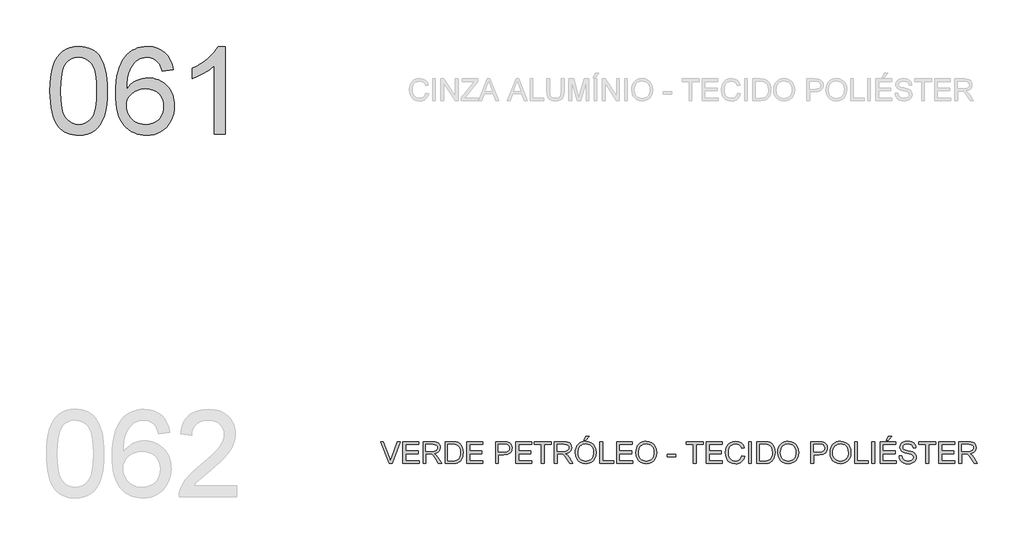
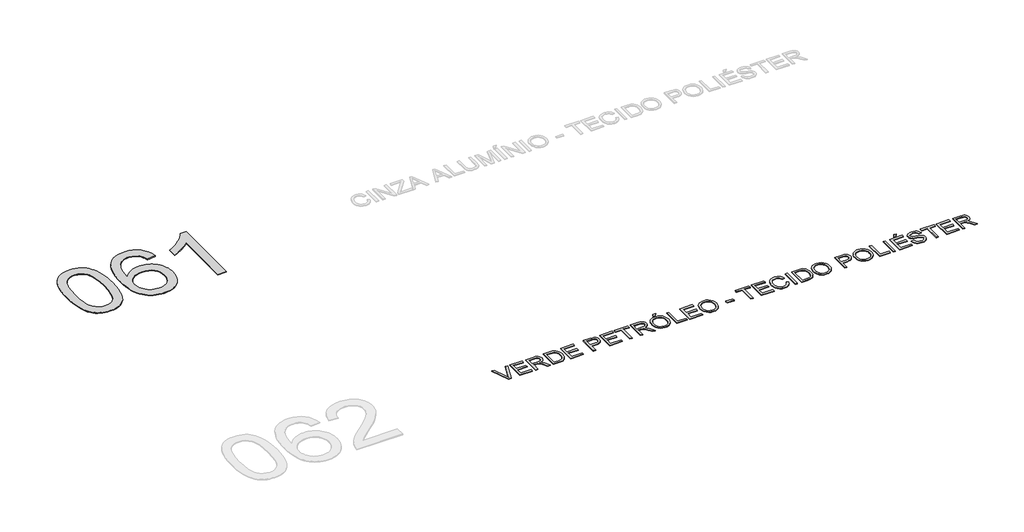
# One storey, part 15 of 35: 2 proxies.
"""IFC4 building model written with IfcOpenShell, lengths in millimetres."""

from ifc_helpers import new_model, si_unit, origin, origin_with_axes, place, context, project, spatial, polyline, outline, extrude, element, save

model = new_model("IFC4")

# Units and contexts
model_context = context("Model", 3, world=origin())
ifc_project = project(units=[si_unit("LENGTHUNIT", "METRE", prefix="MILLI")], contexts=[model_context])

# Site, building, storey
site = spatial("IfcSite", under=ifc_project)
building = spatial("IfcBuilding", under=site)
storey = spatial("IfcBuildingStorey", under=building, Name="Marelli - Linha YOU - Planta Baixa", Elevation=0.0)

# Proxies
placement = place(None, origin())
element("IfcBuildingElementProxy", 1, Name="1200mm Arial", ObjectType="1200mm Arial", at=placement, inside=storey, context=model_context, shape_type="SweptSolid", body=[
    extrude(outline(polyline([(-25265.8913909, -64895.792664), (-25263.1230789, -64794.4319773), (-25254.8181428, -64702.8385576), (-25240.9765828, -64621.0124048), (-25221.5983987, -64548.953519), (-25196.766364, -64486.073289), (-25166.5632522, -64431.7831035), (-25130.9890633, -64386.0829627), (-25090.0437972, -64348.9728664), (-25043.5894983, -64320.2596767), (-24991.4882107, -64299.7502555), (-24933.7399345, -64287.4446027), (-24870.3446697, -64283.3427185), (-24822.7039513, -64285.7707396), (-24777.4912541, -64293.0548031), (-24734.7065781, -64305.194909), (-24694.3499232, -64322.1910572), (-24657.3961768, -64343.7581391), (-24624.8202261, -64369.6110463), (-24596.6220712, -64399.7497788), (-24572.801712, -64434.1743365), (-24552.1635321, -64472.7467637), (-24533.5119149, -64515.3291046), (-24502.1683689, -64612.5235278), (-24490.19381, -64669.6831928), (-24481.6405536, -64735.9479371), (-24476.5085997, -64811.3177609), (-24474.7979485, -64895.792664), (-24477.5386693, -64996.5095573), (-24485.7608319, -65087.6431245), (-24499.4644362, -65169.1933658), (-24518.6494823, -65241.1602811), (-24543.2883789, -65304.0681023), (-24573.353535, -65358.4410612), (-24608.8449505, -65404.2791578), (-24649.7626254, -65441.5823921), (-24696.2721066, -65470.4887199), (-24748.5389411, -65491.1360968), (-24806.5631288, -65503.524523), (-24870.3446697, -65507.6539984), (-24913.0189811, -65505.8605737), (-24953.3388478, -65500.4802995), (-24991.3042697, -65491.5131759), (-25026.9152468, -65478.9592028), (-25060.1717792, -65462.8183803), (-25091.0738668, -65443.0907083), (-25119.6215096, -65419.7761868), (-25145.8147077, -65392.8748159), (-25173.9576803, -65350.2786794), (-25198.3482566, -65302.0999336), (-25218.9864365, -65248.3385785), (-25235.8722201, -65188.9946142), (-25249.0056073, -65124.0680406), (-25258.3865982, -65053.5588577), (-25264.0151927, -64977.4670655), (-25265.8913909, -64895.792664)]), holes=[polyline([(-25115.2069257, -64895.4983584), (-25110.7923417, -65026.4919399), (-25097.5485899, -65132.5247279), (-25087.615776, -65176.1808245), (-25075.4756702, -65213.5967226), (-25061.1282724, -65244.7724225), (-25044.5735826, -65269.7079239), (-25007.1967719, -65307.884878), (-24965.6996828, -65335.1541309), (-24920.0823154, -65351.5156826), (-24870.3446697, -65356.9695332), (-24820.6070239, -65351.4972885), (-24774.9896565, -65335.0805545), (-24733.4925675, -65307.7193311), (-24696.1157568, -65269.4136183), (-24679.561067, -65244.418336), (-24665.2136692, -65213.2104465), (-24653.0735633, -65175.7899498), (-24643.1407495, -65132.1568459), (-24629.8969976, -65026.2528166), (-24625.4824137, -64895.4983584), (-24629.7498448, -64767.9720648), (-24642.5521383, -64663.8062779), (-24652.1538583, -64620.4835744), (-24663.889294, -64583.0009976), (-24677.7584452, -64551.3585475), (-24693.761312, -64525.5562241), (-24730.5127233, -64485.5122689), (-24772.488059, -64456.9094438), (-24819.6873189, -64439.7477487), (-24872.1105033, -64434.0271837), (-24921.5906316, -64439.067167), (-24966.4354468, -64454.187117), (-25006.6449489, -64479.3870337), (-25042.2191378, -64514.666917), (-25059.3256506, -64543.2145599), (-25074.151295, -64577.2068562), (-25086.696071, -64616.6438061), (-25096.9599787, -64661.5254095), (-25110.6451889, -64767.6225769), (-25115.2069257, -64895.4983584)])]), origin_with_axes(), (0.0, 0.0, 1.0), 10.0),
    extrude(outline(polyline([(-23570.6911571, -64603.5472071), (-23721.3756223, -64622.3827652), (-23732.4488704, -64582.0812927), (-23745.655834, -64547.7027202), (-23760.9965132, -64519.2470479), (-23778.470908, -64496.7142757), (-23810.8629177, -64469.2886729), (-23846.8233827, -64449.6989567), (-23886.3523031, -64437.9451269), (-23929.4496788, -64434.0271837), (-23964.9870795, -64436.3080521), (-23999.4944107, -64443.1506572), (-24032.9716723, -64454.554999), (-24065.4188642, -64470.5210776), (-24095.0241678, -64496.6315022), (-24122.0359033, -64528.1681863), (-24146.4540707, -64565.1311297), (-24168.2786701, -64607.5203326), (-24186.3508731, -64658.1316981), (-24199.5118515, -64719.7611293), (-24207.7616052, -64792.4086263), (-24211.1001343, -64876.0741891), (-24182.3777475, -64838.2099347), (-24150.6571225, -64805.5512106), (-24115.9382592, -64778.0980167), (-24078.2211577, -64755.8503531), (-24038.5174933, -64738.6610669), (-23997.8389417, -64726.3830053), (-23956.1855028, -64719.0161683), (-23913.5571766, -64716.560556), (-23876.6586125, -64718.2390176), (-23841.158, -64723.2744024), (-23807.055339, -64731.6667104), (-23774.3506296, -64743.4159416), (-23743.0438719, -64758.5220961), (-23713.1350657, -64776.9851737), (-23684.624211, -64798.8051745), (-23657.511308, -64823.9820986), (-23632.7482512, -64851.81697), (-23611.2869353, -64881.6108131), (-23593.1273603, -64913.3636278), (-23578.2695262, -64947.0754142), (-23566.713433, -64982.7461721), (-23558.4590808, -65020.3759017), (-23553.5064694, -65059.9646029), (-23551.855599, -65101.5122757), (-23554.9642018, -65156.4462547), (-23564.2900104, -65209.4120649), (-23579.8330247, -65260.4097065), (-23601.5932447, -65309.4391794), (-23628.7981183, -65354.6702707), (-23660.6750931, -65394.2727675), (-23697.2241694, -65428.2466698), (-23738.4453469, -65456.5919775), (-23783.455709, -65478.9316116), (-23831.3723389, -65494.8884932), (-23882.1952365, -65504.4626221), (-23935.9244019, -65507.6539984), (-23981.9257462, -65505.5386769), (-24025.7519881, -65499.1927125), (-24067.4031277, -65488.6161052), (-24106.8791651, -65473.8088549), (-24144.1801001, -65454.7709616), (-24179.3059329, -65431.5024254), (-24212.2566633, -65404.0032463), (-24243.0322915, -65372.2734242), (-24270.8648637, -65335.6875598), (-24294.9864263, -65293.6202536), (-24315.3969792, -65246.0715057), (-24332.0965225, -65193.0413161), (-24345.0850562, -65134.5296848), (-24354.3625803, -65070.5366117), (-24359.9290947, -65001.062097), (-24361.7845995, -64926.1061404), (-24359.7244604, -64842.1784618), (-24353.5440429, -64764.1828803), (-24343.243347, -64692.1193959), (-24328.8223728, -64625.9880088), (-24310.2811202, -64565.7887188), (-24287.6195893, -64511.521526), (-24260.8377801, -64463.1864303), (-24229.9356925, -64420.7834319), (-24199.9211202, -64388.5707647), (-24167.4141474, -64360.6531198), (-24132.4147741, -64337.0304971), (-24094.9230002, -64317.7028968), (-24054.9388259, -64302.6703188), (-24012.462251, -64291.9327631), (-23967.4932756, -64285.4902296), (-23920.0318997, -64283.3427185), (-23850.6309613, -64288.6586133), (-23787.8151107, -64304.6062978), (-23731.5843477, -64331.1857719), (-23681.9386725, -64368.3970358), (-23640.2208542, -64414.9892904), (-23607.7736622, -64469.7117372), (-23584.5970965, -64532.5643761), (-23570.6911571, -64603.5472071)]), holes=[polyline([(-24211.1001343, -65099.157831), (-24208.9204335, -65132.9202011), (-24202.381331, -65165.9284131), (-24191.4828269, -65198.182467), (-24176.2249212, -65229.6823629), (-24157.3525748, -65258.9473756), (-24135.6107489, -65284.4967801), (-24110.9994434, -65306.3305766), (-24083.5186584, -65324.4487648), (-24053.3431377, -65338.676601), (-24020.6476254, -65348.8393411), (-23985.4321214, -65354.9369852), (-23947.6966258, -65356.9695332), (-23895.3194267, -65352.7572843), (-23848.2581225, -65340.1205378), (-23806.5127131, -65319.0592936), (-23770.0831985, -65289.5735517), (-23740.5330772, -65252.8589286), (-23719.4258478, -65210.1110407), (-23706.7615101, -65161.3298882), (-23702.5400642, -65106.5154709), (-23706.7063278, -65053.8439662), (-23719.2051186, -65007.0769676), (-23740.0364365, -64966.214475), (-23769.2002817, -64931.2564884), (-23805.7401609, -64903.2514715), (-23848.6995809, -64883.247888), (-23898.0785417, -64871.2457379), (-23953.8770433, -64867.2450212), (-24005.5552666, -64871.2457379), (-24053.1683938, -64883.247888), (-24096.716425, -64903.2514715), (-24136.1993601, -64931.2564884), (-24168.9684488, -64965.7546225), (-24192.3749408, -65005.2375576), (-24206.4188359, -65049.7052938), (-24211.1001343, -65099.157831)])]), origin_with_axes(), (0.0, 0.0, 1.0), 10.0),
    extrude(outline(polyline([(-22854.9399473, -65488.8184403), (-23005.6244125, -65488.8184403), (-23005.6244125, -64549.3949774), (-23068.5322337, -64600.2730573), (-23148.3626267, -64651.0775608), (-23232.1661452, -64695.4809177), (-23306.993343, -64727.1555575), (-23306.993343, -64584.7116489), (-23245.8421583, -64554.0486846), (-23188.6457051, -64520.3322998), (-23135.4039834, -64483.5624943), (-23086.1169931, -64443.7392684), (-23042.2562622, -64402.7020318), (-23005.2933187, -64362.2901946), (-22975.2281627, -64322.5037569), (-22952.060794, -64283.3427185), (-22854.9399473, -64283.3427185), (-22854.9399473, -65488.8184403)])), origin_with_axes(), (0.0, 0.0, 1.0), 10.0),
])
element("IfcBuildingElementProxy", 2, Name="300mm Arial", ObjectType="300mm Arial", at=placement, inside=storey, context=model_context, shape_type="SweptSolid", body=[
    extrude(outline(polyline([(-20594.021017, -70030.5663201), (-20713.9505474, -69729.1973896), (-20673.6306808, -69729.1973896), (-20593.3588294, -69946.3213432), (-20577.0984452, -69995.2496485), (-20561.0587902, -69946.3213432), (-20480.5662097, -69729.1973896), (-20440.246343, -69729.1973896), (-20555.0991019, -70030.5663201), (-20594.021017, -70030.5663201)])), origin_with_axes(), (0.0, 0.0, 1.0), 10.0),
    extrude(outline(polyline([(-20405.2239771, -70030.5663201), (-20405.2239771, -69729.1973896), (-20188.6150583, -69729.1973896), (-20188.6150583, -69766.8685059), (-20367.5528608, -69766.8685059), (-20367.5528608, -69856.3374072), (-20198.0328374, -69856.3374072), (-20198.0328374, -69894.0085235), (-20367.5528608, -69894.0085235), (-20367.5528608, -69992.8952038), (-20183.9061688, -69992.8952038), (-20183.9061688, -70030.5663201), (-20405.2239771, -70030.5663201)])), origin_with_axes(), (0.0, 0.0, 1.0), 10.0),
    extrude(outline(polyline([(-20127.3994943, -70030.5663201), (-20127.3994943, -69729.1973896), (-19997.53715, -69729.1973896), (-19962.6343457, -69731.2299376), (-19937.241291, -69737.3275817), (-19918.6816444, -69748.5847708), (-19904.2790643, -69766.0959537), (-19895.0360291, -69787.8101885), (-19891.9550174, -69811.6765329), (-19897.0593801, -69841.3646099), (-19912.3724682, -69865.9759154), (-19923.9722473, -69876.0052983), (-19938.3541341, -69884.0205273), (-19975.4642303, -69894.0085235), (-19954.0534982, -69910.1217548), (-19923.5192926, -69948.8965171), (-19873.2666121, -70030.5663201), (-19917.0445695, -70030.5663201), (-19956.2607902, -69968.0999573), (-19984.5877038, -69926.750021), (-20004.4901197, -69907.2154871), (-20022.4059729, -69900.0417882), (-20044.2581634, -69898.717413), (-20089.728378, -69898.717413), (-20089.728378, -70030.5663201), (-20127.3994943, -70030.5663201)]), holes=[polyline([(-20089.728378, -69861.0462967), (-20005.4098247, -69861.0462967), (-19981.1939924, -69859.7127245), (-19962.4044195, -69855.7120078), (-19948.2593568, -69848.7774322), (-19937.977055, -69838.6422832), (-19931.713864, -69826.3826157), (-19929.6261337, -69813.0744845), (-19933.6084563, -69794.6987789), (-19945.5554241, -69779.8915286), (-19966.1108306, -69770.1242616), (-19995.9184693, -69766.8685059), (-20089.728378, -69766.8685059), (-20089.728378, -69861.0462967)])]), origin_with_axes(), (0.0, 0.0, 1.0), 10.0),
    extrude(outline(polyline([(-19826.0305639, -70030.5663201), (-19826.0305639, -69729.1973896), (-19722.067112, -69729.1973896), (-19668.2827644, -69733.5383972), (-19644.2600701, -69741.9077126), (-19623.9897721, -69755.0962821), (-19603.1492571, -69778.0521186), (-19588.3052186, -69806.5997614), (-19579.4208684, -69840.1873876), (-19576.4594184, -69878.2631741), (-19578.4643752, -69910.6091985), (-19584.4792458, -69939.0740679), (-19593.6395075, -69963.3082943), (-19605.0806376, -69982.9623899), (-19618.250813, -69998.477813), (-19632.5982108, -70010.2960221), (-19649.0701272, -70019.0608107), (-19668.6138581, -70025.4159721), (-19717.0639169, -70030.5663201), (-19826.0305639, -70030.5663201)]), holes=[polyline([(-19788.3594476, -69992.8952038), (-19721.6992301, -69992.8952038), (-19694.1264745, -69991.5340404), (-19673.2123831, -69987.4505502), (-19657.4302455, -69980.8838566), (-19645.2533515, -69972.0730828), (-19632.1659495, -69955.7667134), (-19622.3343032, -69934.6594839), (-19616.1814768, -69908.6594239), (-19614.1305347, -69877.6745629), (-19618.1496455, -69836.6189322), (-19630.2069779, -69806.3054558), (-19648.0216635, -69785.4833349), (-19669.3128339, -69772.9017706), (-19690.9810835, -69768.3768221), (-19722.7292996, -69766.8685059), (-19788.3594476, -69766.8685059), (-19788.3594476, -69992.8952038)])]), origin_with_axes(), (0.0, 0.0, 1.0), 10.0),
    extrude(outline(polyline([(-19524.6616334, -70030.5663201), (-19524.6616334, -69729.1973896), (-19308.0527147, -69729.1973896), (-19308.0527147, -69766.8685059), (-19486.9905171, -69766.8685059), (-19486.9905171, -69856.3374072), (-19317.4704938, -69856.3374072), (-19317.4704938, -69894.0085235), (-19486.9905171, -69894.0085235), (-19486.9905171, -69992.8952038), (-19303.3438251, -69992.8952038), (-19303.3438251, -70030.5663201), (-19524.6616334, -70030.5663201)])), origin_with_axes(), (0.0, 0.0, 1.0), 10.0),
    extrude(outline(polyline([(-19129.1149122, -70030.5663201), (-19129.1149122, -69729.1973896), (-19017.4259385, -69729.1973896), (-18972.3971823, -69732.0668692), (-18952.3200224, -69737.4287493), (-18935.7929238, -69746.1567496), (-18922.4847926, -69758.6463433), (-18912.0645351, -69775.2930036), (-18905.3322946, -69794.9287051), (-18903.0882144, -69816.3854225), (-18904.6034284, -69834.8852883), (-18909.1490703, -69851.9044291), (-18916.7251401, -69867.4428449), (-18927.3316379, -69881.5005356), (-18941.8928671, -69893.1531978), (-18961.3331313, -69901.476528), (-18985.6524304, -69906.470526), (-19014.8507645, -69908.1351921), (-19091.4437959, -69908.1351921), (-19091.4437959, -70030.5663201), (-19129.1149122, -70030.5663201)]), holes=[polyline([(-19091.4437959, -69870.4640758), (-19012.6434725, -69870.4640758), (-18979.2397874, -69867.005985), (-18957.1668677, -69856.6317127), (-18944.8612149, -69839.9850525), (-18940.7593307, -69817.7097977), (-18943.1781548, -69800.7872259), (-18950.4346272, -69786.5134045), (-18961.6274369, -69775.7712502), (-18975.855273, -69769.4436799), (-19013.5263893, -69766.8685059), (-19091.4437959, -69766.8685059), (-19091.4437959, -69870.4640758)])]), origin_with_axes(), (0.0, 0.0, 1.0), 10.0),
    extrude(outline(polyline([(-18851.2904295, -70030.5663201), (-18851.2904295, -69729.1973896), (-18634.6815107, -69729.1973896), (-18634.6815107, -69766.8685059), (-18813.6193132, -69766.8685059), (-18813.6193132, -69856.3374072), (-18644.0992898, -69856.3374072), (-18644.0992898, -69894.0085235), (-18813.6193132, -69894.0085235), (-18813.6193132, -69992.8952038), (-18629.9726212, -69992.8952038), (-18629.9726212, -70030.5663201), (-18851.2904295, -70030.5663201)])), origin_with_axes(), (0.0, 0.0, 1.0), 10.0),
    extrude(outline(polyline([(-18498.1237141, -70030.5663201), (-18498.1237141, -69766.8685059), (-18597.0103944, -69766.8685059), (-18597.0103944, -69729.1973896), (-18361.5659175, -69729.1973896), (-18361.5659175, -69766.8685059), (-18460.4525978, -69766.8685059), (-18460.4525978, -70030.5663201), (-18498.1237141, -70030.5663201)])), origin_with_axes(), (0.0, 0.0, 1.0), 10.0),
    extrude(outline(polyline([(-18319.1859116, -70030.5663201), (-18319.1859116, -69729.1973896), (-18189.3235673, -69729.1973896), (-18154.420763, -69731.2299376), (-18129.0277083, -69737.3275817), (-18110.4680617, -69748.5847708), (-18096.0654816, -69766.0959537), (-18086.8224464, -69787.8101885), (-18083.7414347, -69811.6765329), (-18088.8457974, -69841.3646099), (-18104.1588855, -69865.9759154), (-18115.7586646, -69876.0052983), (-18130.1405514, -69884.0205273), (-18167.2506476, -69894.0085235), (-18145.8399155, -69910.1217548), (-18115.3057099, -69948.8965171), (-18065.0530294, -70030.5663201), (-18108.8309868, -70030.5663201), (-18148.0472075, -69968.0999573), (-18176.3741211, -69926.750021), (-18196.2765371, -69907.2154871), (-18214.1923902, -69900.0417882), (-18236.0445807, -69898.717413), (-18281.5147953, -69898.717413), (-18281.5147953, -70030.5663201), (-18319.1859116, -70030.5663201)]), holes=[polyline([(-18281.5147953, -69861.0462967), (-18197.196242, -69861.0462967), (-18172.9804097, -69859.7127245), (-18154.1908368, -69855.7120078), (-18140.0457741, -69848.7774322), (-18129.7634723, -69838.6422832), (-18123.5002814, -69826.3826157), (-18121.412551, -69813.0744845), (-18125.3948736, -69794.6987789), (-18137.3418414, -69779.8915286), (-18157.8972479, -69770.1242616), (-18187.7048866, -69766.8685059), (-18281.5147953, -69766.8685059), (-18281.5147953, -69861.0462967)])]), origin_with_axes(), (0.0, 0.0, 1.0), 10.0),
    extrude(outline(polyline([(-18031.9436498, -69883.8549804), (-18029.4328552, -69848.5061192), (-18021.9004713, -69817.213157), (-18009.3464983, -69789.9760937), (-17991.7709359, -69766.7949295), (-17970.2268466, -69748.2858666), (-17945.7672924, -69735.0651074), (-17918.3922735, -69727.1326519), (-17888.1017897, -69724.4885001), (-17848.5728693, -69729.454907), (-17813.1274391, -69744.3541278), (-17783.6968795, -69768.1376988), (-17762.2125709, -69799.7571563), (-17749.0791837, -69837.68579), (-17744.701388, -69880.3968896), (-17749.30911, -69923.6782064), (-17763.1322759, -69962.140269), (-17785.4075307, -69993.8149087), (-17815.3715192, -70016.733957), (-17850.5134468, -70030.6398965), (-17888.3225189, -70035.2752096), (-17928.4584446, -70030.1524528), (-17964.1062099, -70014.7841825), (-17993.4631931, -69990.5591531), (-18014.7267724, -69958.8661192), (-18027.6394305, -69922.3998164), (-18031.9436498, -69883.8549804)]), holes=[polyline([(-17994.2725335, -69884.2228624), (-17992.3894375, -69909.1974513), (-17986.7401496, -69931.3669401), (-17977.3246698, -69950.7313286), (-17964.1429981, -69967.2906169), (-17948.1194379, -69980.5527628), (-17930.1782929, -69990.0257242), (-17910.3195629, -69995.709501), (-17888.5432481, -69997.6040933), (-17866.3944527, -69995.6911069), (-17846.301198, -69989.9521478), (-17828.2634839, -69980.3872159), (-17812.2813105, -69966.9963113), (-17799.1962078, -69950.0875351), (-17789.8497058, -69929.9689885), (-17784.2418047, -69906.6406715), (-17782.3725043, -69880.102584), (-17785.5730776, -69846.7540812), (-17795.1747977, -69817.9305269), (-17810.9293442, -69794.358488), (-17832.5883966, -69776.7645316), (-17858.7172153, -69765.8108452), (-17887.8810605, -69762.1596164), (-17908.900918, -69763.9185522), (-17928.4032623, -69769.1953595), (-17946.3880933, -69777.9900385), (-17962.8554111, -69790.302589), (-17976.6004022, -69806.7262208), (-17986.4182529, -69827.8541437), (-17992.3089633, -69853.6863575), (-17994.2725335, -69884.2228624)])]), origin_with_axes(), (0.0, 0.0, 1.0), 10.0),
    extrude(outline(polyline([(-17914.2214113, -69710.3618315), (-17885.9680741, -69653.855157), (-17838.8791787, -69653.855157), (-17885.9680741, -69710.3618315), (-17914.2214113, -69710.3618315)])), origin_with_axes(), (0.0, 0.0, 1.0), 10.0),
    extrude(outline(polyline([(-17692.903603, -70030.5663201), (-17692.903603, -69729.1973896), (-17655.2324867, -69729.1973896), (-17655.2324867, -69992.8952038), (-17504.5480215, -69992.8952038), (-17504.5480215, -70030.5663201), (-17692.903603, -70030.5663201)])), origin_with_axes(), (0.0, 0.0, 1.0), 10.0),
    extrude(outline(polyline([(-17462.1680157, -70030.5663201), (-17462.1680157, -69729.1973896), (-17245.5590969, -69729.1973896), (-17245.5590969, -69766.8685059), (-17424.4968994, -69766.8685059), (-17424.4968994, -69856.3374072), (-17254.976876, -69856.3374072), (-17254.976876, -69894.0085235), (-17424.4968994, -69894.0085235), (-17424.4968994, -69992.8952038), (-17240.8502074, -69992.8952038), (-17240.8502074, -70030.5663201), (-17462.1680157, -70030.5663201)])), origin_with_axes(), (0.0, 0.0, 1.0), 10.0),
    extrude(outline(polyline([(-17198.4702015, -69883.8549804), (-17195.9594069, -69848.5061192), (-17188.4270231, -69817.213157), (-17175.87305, -69789.9760937), (-17158.2974877, -69766.7949295), (-17136.7533983, -69748.2858666), (-17112.2938442, -69735.0651074), (-17084.9188252, -69727.1326519), (-17054.6283414, -69724.4885001), (-17015.099421, -69729.454907), (-16979.6539908, -69744.3541278), (-16950.2234312, -69768.1376988), (-16928.7391227, -69799.7571563), (-16915.6057354, -69837.68579), (-16911.2279397, -69880.3968896), (-16915.8356617, -69923.6782064), (-16929.6588277, -69962.140269), (-16951.9340825, -69993.8149087), (-16981.898071, -70016.733957), (-17017.0399986, -70030.6398965), (-17054.8490706, -70035.2752096), (-17094.9849963, -70030.1524528), (-17130.6327616, -70014.7841825), (-17159.9897448, -69990.5591531), (-17181.2533242, -69958.8661192), (-17194.1659822, -69922.3998164), (-17198.4702015, -69883.8549804)]), holes=[polyline([(-17160.7990852, -69884.2228624), (-17158.9159893, -69909.1974513), (-17153.2667014, -69931.3669401), (-17143.8512216, -69950.7313286), (-17130.6695498, -69967.2906169), (-17114.6459897, -69980.5527628), (-17096.7048446, -69990.0257242), (-17076.8461147, -69995.709501), (-17055.0697998, -69997.6040933), (-17032.9210044, -69995.6911069), (-17012.8277497, -69989.9521478), (-16994.7900356, -69980.3872159), (-16978.8078622, -69966.9963113), (-16965.7227595, -69950.0875351), (-16956.3762576, -69929.9689885), (-16950.7683564, -69906.6406715), (-16948.899056, -69880.102584), (-16952.0996294, -69846.7540812), (-16961.7013494, -69817.9305269), (-16977.4558959, -69794.358488), (-16999.1149483, -69776.7645316), (-17025.2437671, -69765.8108452), (-17054.4076122, -69762.1596164), (-17075.4274697, -69763.9185522), (-17094.929814, -69769.1953595), (-17112.914645, -69777.9900385), (-17129.3819628, -69790.302589), (-17143.1269539, -69806.7262208), (-17152.9448046, -69827.8541437), (-17158.8355151, -69853.6863575), (-17160.7990852, -69884.2228624)])]), origin_with_axes(), (0.0, 0.0, 1.0), 10.0),
    extrude(outline(polyline([(-16765.252364, -69941.0974188), (-16765.252364, -69903.4263025), (-16647.5301256, -69903.4263025), (-16647.5301256, -69941.0974188), (-16765.252364, -69941.0974188)])), origin_with_axes(), (0.0, 0.0, 1.0), 10.0),
    extrude(outline(polyline([(-16407.3767591, -70030.5663201), (-16407.3767591, -69766.8685059), (-16506.2634394, -69766.8685059), (-16506.2634394, -69729.1973896), (-16270.8189625, -69729.1973896), (-16270.8189625, -69766.8685059), (-16369.7056428, -69766.8685059), (-16369.7056428, -70030.5663201), (-16407.3767591, -70030.5663201)])), origin_with_axes(), (0.0, 0.0, 1.0), 10.0),
    extrude(outline(polyline([(-16228.4389566, -70030.5663201), (-16228.4389566, -69729.1973896), (-16011.8300379, -69729.1973896), (-16011.8300379, -69766.8685059), (-16190.7678403, -69766.8685059), (-16190.7678403, -69856.3374072), (-16021.247817, -69856.3374072), (-16021.247817, -69894.0085235), (-16190.7678403, -69894.0085235), (-16190.7678403, -69992.8952038), (-16007.1211484, -69992.8952038), (-16007.1211484, -70030.5663201), (-16228.4389566, -70030.5663201)])), origin_with_axes(), (0.0, 0.0, 1.0), 10.0),
    extrude(outline(polyline([(-15738.7144447, -69923.4390831), (-15701.0433284, -69933.1511677), (-15708.4975373, -69956.5783531), (-15718.4257526, -69977.0486868), (-15730.8279744, -69994.5621691), (-15745.7042026, -70009.1187997), (-15762.7187449, -70020.5622291), (-15781.5359089, -70028.7361071), (-15802.1556947, -70033.640434), (-15824.5781023, -70035.2752096), (-15868.2732863, -70030.3271968), (-15902.9737555, -70015.4831583), (-15929.5716238, -69991.2581289), (-15948.9590049, -69958.1671434), (-15960.7956081, -69919.2636224), (-15964.7411425, -69877.6009865), (-15960.2805733, -69833.6574821), (-15946.8988657, -69795.7104543), (-15925.2949956, -69764.9647166), (-15896.1679386, -69742.6250824), (-15861.6238193, -69729.0226457), (-15823.768762, -69724.4885001), (-15782.4648109, -69730.3562179), (-15764.4960747, -69737.6908652), (-15748.3161647, -69747.9593714), (-15734.1917954, -69760.8904235), (-15722.3896811, -69776.2127086), (-15705.7522179, -69814.0309777), (-15743.4233342, -69823.0072984), (-15756.483145, -69795.5357104), (-15774.3254218, -69776.6909552), (-15797.1708937, -69765.7924511), (-15825.2402899, -69762.1596164), (-15857.5955114, -69766.1879242), (-15884.1749856, -69778.2728478), (-15904.3441159, -69797.1451941), (-15917.4683061, -69821.5357704), (-15924.6695962, -69849.1085259), (-15927.0700262, -69877.5274101), (-15924.2281378, -69912.3290468), (-15915.7024726, -69942.421794), (-15901.1711337, -69966.6560205), (-15880.3122246, -69983.8820949), (-15855.305446, -69994.1735937), (-15828.3304987, -69997.6040933), (-15796.8857852, -69992.931992), (-15770.6833901, -69978.9156879), (-15750.9005358, -69955.702334), (-15738.7144447, -69923.4390831)])), origin_with_axes(), (0.0, 0.0, 1.0), 10.0),
    extrude(outline(polyline([(-15644.5366539, -70030.5663201), (-15644.5366539, -69729.1973896), (-15606.8655376, -69729.1973896), (-15606.8655376, -70030.5663201), (-15644.5366539, -70030.5663201)])), origin_with_axes(), (0.0, 0.0, 1.0), 10.0),
    extrude(outline(polyline([(-15531.523305, -70030.5663201), (-15531.523305, -69729.1973896), (-15427.5598531, -69729.1973896), (-15373.7755055, -69733.5383972), (-15349.7528112, -69741.9077126), (-15329.4825132, -69755.0962821), (-15308.6419982, -69778.0521186), (-15293.7979597, -69806.5997614), (-15284.9136095, -69840.1873876), (-15281.9521595, -69878.2631741), (-15283.9571163, -69910.6091985), (-15289.971987, -69939.0740679), (-15299.1322486, -69963.3082943), (-15310.5733787, -69982.9623899), (-15323.7435541, -69998.477813), (-15338.0909519, -70010.2960221), (-15354.5628683, -70019.0608107), (-15374.1065993, -70025.4159721), (-15422.556658, -70030.5663201), (-15531.523305, -70030.5663201)]), holes=[polyline([(-15493.8521887, -69992.8952038), (-15427.1919712, -69992.8952038), (-15399.6192156, -69991.5340404), (-15378.7051242, -69987.4505502), (-15362.9229866, -69980.8838566), (-15350.7460926, -69972.0730828), (-15337.6586906, -69955.7667134), (-15327.8270443, -69934.6594839), (-15321.6742179, -69908.6594239), (-15319.6232758, -69877.6745629), (-15323.6423866, -69836.6189322), (-15335.699719, -69806.3054558), (-15353.5144046, -69785.4833349), (-15374.805575, -69772.9017706), (-15396.4738246, -69768.3768221), (-15428.2220407, -69766.8685059), (-15493.8521887, -69766.8685059), (-15493.8521887, -69992.8952038)])]), origin_with_axes(), (0.0, 0.0, 1.0), 10.0),
    extrude(outline(polyline([(-15244.2810432, -69883.8549804), (-15241.7702485, -69848.5061192), (-15234.2378647, -69817.213157), (-15221.6838916, -69789.9760937), (-15204.1083293, -69766.7949295), (-15182.5642399, -69748.2858666), (-15158.1046858, -69735.0651074), (-15130.7296668, -69727.1326519), (-15100.439183, -69724.4885001), (-15060.9102627, -69729.454907), (-15025.4648324, -69744.3541278), (-14996.0342728, -69768.1376988), (-14974.5499643, -69799.7571563), (-14961.4165771, -69837.68579), (-14957.0387813, -69880.3968896), (-14961.6465033, -69923.6782064), (-14975.4696693, -69962.140269), (-14997.7449241, -69993.8149087), (-15027.7089126, -70016.733957), (-15062.8508402, -70030.6398965), (-15100.6599122, -70035.2752096), (-15140.7958379, -70030.1524528), (-15176.4436032, -70014.7841825), (-15205.8005865, -69990.5591531), (-15227.0641658, -69958.8661192), (-15239.9768238, -69922.3998164), (-15244.2810432, -69883.8549804)]), holes=[polyline([(-15206.6099268, -69884.2228624), (-15204.7268309, -69909.1974513), (-15199.077543, -69931.3669401), (-15189.6620632, -69950.7313286), (-15176.4803914, -69967.2906169), (-15160.4568313, -69980.5527628), (-15142.5156862, -69990.0257242), (-15122.6569563, -69995.709501), (-15100.8806414, -69997.6040933), (-15078.7318461, -69995.6911069), (-15058.6385913, -69989.9521478), (-15040.6008773, -69980.3872159), (-15024.6187038, -69966.9963113), (-15011.5336011, -69950.0875351), (-15002.1870992, -69929.9689885), (-14996.579198, -69906.6406715), (-14994.7098976, -69880.102584), (-14997.910471, -69846.7540812), (-15007.5121911, -69817.9305269), (-15023.2667375, -69794.358488), (-15044.92579, -69776.7645316), (-15071.0546087, -69765.8108452), (-15100.2184538, -69762.1596164), (-15121.2383113, -69763.9185522), (-15140.7406556, -69769.1953595), (-15158.7254866, -69777.9900385), (-15175.1928045, -69790.302589), (-15188.9377955, -69806.7262208), (-15198.7556462, -69827.8541437), (-15204.6463567, -69853.6863575), (-15206.6099268, -69884.2228624)])]), origin_with_axes(), (0.0, 0.0, 1.0), 10.0),
    extrude(outline(polyline([(-14787.5187579, -70030.5663201), (-14787.5187579, -69729.1973896), (-14675.8297842, -69729.1973896), (-14630.801028, -69732.0668692), (-14610.7238681, -69737.4287493), (-14594.1967695, -69746.1567496), (-14580.8886383, -69758.6463433), (-14570.4683808, -69775.2930036), (-14563.7361403, -69794.9287051), (-14561.4920601, -69816.3854225), (-14563.0072741, -69834.8852883), (-14567.552916, -69851.9044291), (-14575.1289858, -69867.4428449), (-14585.7354836, -69881.5005356), (-14600.2967128, -69893.1531978), (-14619.736977, -69901.476528), (-14644.0562761, -69906.470526), (-14673.2546102, -69908.1351921), (-14749.8476416, -69908.1351921), (-14749.8476416, -70030.5663201), (-14787.5187579, -70030.5663201)]), holes=[polyline([(-14749.8476416, -69870.4640758), (-14671.0473183, -69870.4640758), (-14637.6436331, -69867.005985), (-14615.5707134, -69856.6317127), (-14603.2650607, -69839.9850525), (-14599.1631764, -69817.7097977), (-14601.5820005, -69800.7872259), (-14608.8384729, -69786.5134045), (-14620.0312826, -69775.7712502), (-14634.2591188, -69769.4436799), (-14671.9302351, -69766.8685059), (-14749.8476416, -69766.8685059), (-14749.8476416, -69870.4640758)])]), origin_with_axes(), (0.0, 0.0, 1.0), 10.0),
    extrude(outline(polyline([(-14523.8209438, -69883.8549804), (-14521.3101492, -69848.5061192), (-14513.7777653, -69817.213157), (-14501.2237922, -69789.9760937), (-14483.6482299, -69766.7949295), (-14462.1041406, -69748.2858666), (-14437.6445864, -69735.0651074), (-14410.2695675, -69727.1326519), (-14379.9790837, -69724.4885001), (-14340.4501633, -69729.454907), (-14305.0047331, -69744.3541278), (-14275.5741735, -69768.1376988), (-14254.0898649, -69799.7571563), (-14240.9564777, -69837.68579), (-14236.578682, -69880.3968896), (-14241.186404, -69923.6782064), (-14255.0095699, -69962.140269), (-14277.2848247, -69993.8149087), (-14307.2488132, -70016.733957), (-14342.3907408, -70030.6398965), (-14380.1998129, -70035.2752096), (-14420.3357386, -70030.1524528), (-14455.9835039, -70014.7841825), (-14485.3404871, -69990.5591531), (-14506.6040664, -69958.8661192), (-14519.5167245, -69922.3998164), (-14523.8209438, -69883.8549804)]), holes=[polyline([(-14486.1498275, -69884.2228624), (-14484.2667315, -69909.1974513), (-14478.6174436, -69931.3669401), (-14469.2019638, -69950.7313286), (-14456.0202921, -69967.2906169), (-14439.9967319, -69980.5527628), (-14422.0555869, -69990.0257242), (-14402.1968569, -69995.709501), (-14380.4205421, -69997.6040933), (-14358.2717467, -69995.6911069), (-14338.178492, -69989.9521478), (-14320.1407779, -69980.3872159), (-14304.1586045, -69966.9963113), (-14291.0735018, -69950.0875351), (-14281.7269998, -69929.9689885), (-14276.1190987, -69906.6406715), (-14274.2497983, -69880.102584), (-14277.4503716, -69846.7540812), (-14287.0520917, -69817.9305269), (-14302.8066381, -69794.358488), (-14324.4656906, -69776.7645316), (-14350.5945093, -69765.8108452), (-14379.7583545, -69762.1596164), (-14400.778212, -69763.9185522), (-14420.2805563, -69769.1953595), (-14438.2653873, -69777.9900385), (-14454.7327051, -69790.302589), (-14468.4776961, -69806.7262208), (-14478.2955469, -69827.8541437), (-14484.1862573, -69853.6863575), (-14486.1498275, -69884.2228624)])]), origin_with_axes(), (0.0, 0.0, 1.0), 10.0),
    extrude(outline(polyline([(-14184.780897, -70030.5663201), (-14184.780897, -69729.1973896), (-14147.1097807, -69729.1973896), (-14147.1097807, -69992.8952038), (-13996.4253155, -69992.8952038), (-13996.4253155, -70030.5663201), (-14184.780897, -70030.5663201)])), origin_with_axes(), (0.0, 0.0, 1.0), 10.0),
    extrude(outline(polyline([(-13949.3364201, -70030.5663201), (-13949.3364201, -69729.1973896), (-13911.6653038, -69729.1973896), (-13911.6653038, -70030.5663201), (-13949.3364201, -70030.5663201)])), origin_with_axes(), (0.0, 0.0, 1.0), 10.0),
    extrude(outline(polyline([(-13836.3230712, -70030.5663201), (-13836.3230712, -69729.1973896), (-13619.7141525, -69729.1973896), (-13619.7141525, -69766.8685059), (-13798.6519549, -69766.8685059), (-13798.6519549, -69856.3374072), (-13629.1319315, -69856.3374072), (-13629.1319315, -69894.0085235), (-13798.6519549, -69894.0085235), (-13798.6519549, -69992.8952038), (-13615.0052629, -69992.8952038), (-13615.0052629, -70030.5663201), (-13836.3230712, -70030.5663201)])), origin_with_axes(), (0.0, 0.0, 1.0), 10.0),
    extrude(outline(polyline([(-13751.5630595, -69710.3618315), (-13723.3097223, -69653.855157), (-13676.2208269, -69653.855157), (-13723.3097223, -69710.3618315), (-13751.5630595, -69710.3618315)])), origin_with_axes(), (0.0, 0.0, 1.0), 10.0),
    extrude(outline(polyline([(-13572.6252571, -69926.9707502), (-13534.9541408, -69926.9707502), (-13530.6315273, -69947.8756446), (-13522.8140349, -69964.6786547), (-13510.6187468, -69978.0143771), (-13493.1627461, -69988.517408), (-13471.8255904, -69995.332422), (-13447.9868371, -69997.6040933), (-13426.9991693, -69995.884245), (-13408.6234636, -69990.7247), (-13393.7334399, -69982.5577197), (-13383.2028178, -69971.8155654), (-13376.9396268, -69959.4823215), (-13374.8518965, -69946.5420724), (-13376.4153949, -69933.932917), (-13381.1058904, -69923.0344129), (-13390.6340341, -69913.7361954), (-13406.7104772, -69905.9279001), (-13461.5616827, -69891.5437141), (-13497.568133, -69882.0247675), (-13520.606743, -69872.9656733), (-13539.3595277, -69860.2921386), (-13552.6492647, -69844.9330653), (-13560.5679247, -69827.2195472), (-13563.207478, -69807.4826782), (-13559.9425253, -69785.4189555), (-13550.1476672, -69764.845155), (-13534.080421, -69747.4075484), (-13511.9983043, -69734.7524077), (-13485.4924065, -69727.054477), (-13456.1538174, -69724.4885001), (-13424.368813, -69727.1740386), (-13396.5569342, -69735.2306543), (-13373.7114623, -69748.4928003), (-13356.8256787, -69766.7949295), (-13346.1387067, -69788.9966079), (-13341.8896697, -69813.9574013), (-13379.560786, -69813.9574013), (-13386.4769675, -69791.4798114), (-13400.8979417, -69775.2562154), (-13423.4307139, -69765.4337661), (-13454.6822894, -69762.1596164), (-13486.6696289, -69765.3969779), (-13508.6137899, -69775.1090626), (-13521.3057187, -69789.4012781), (-13525.5363617, -69806.3790322), (-13522.5381234, -69820.8551887), (-13513.5434086, -69832.4986539), (-13492.2798293, -69842.9097143), (-13452.0335391, -69853.541504), (-13410.4996618, -69863.6398648), (-13385.3733215, -69872.4506385), (-13363.8982101, -69886.1174547), (-13348.9162158, -69902.9848441), (-13340.1146391, -69922.868866), (-13337.1807802, -69945.5855792), (-13340.5560975, -69968.8081301), (-13350.6820494, -69990.6511236), (-13367.1447687, -70009.4498935), (-13389.5303881, -70023.539774), (-13416.4501531, -70032.3413507), (-13446.5153091, -70035.2752096), (-13483.4230703, -70032.1114244), (-13513.800926, -70022.620069), (-13537.9983643, -70006.764355), (-13556.3648729, -69984.5074943), (-13568.1554908, -69957.3945912), (-13572.6252571, -69926.9707502)])), origin_with_axes(), (0.0, 0.0, 1.0), 10.0),
    extrude(outline(polyline([(-13205.3318731, -70030.5663201), (-13205.3318731, -69766.8685059), (-13304.2185534, -69766.8685059), (-13304.2185534, -69729.1973896), (-13068.7740765, -69729.1973896), (-13068.7740765, -69766.8685059), (-13167.6607568, -69766.8685059), (-13167.6607568, -70030.5663201), (-13205.3318731, -70030.5663201)])), origin_with_axes(), (0.0, 0.0, 1.0), 10.0),
    extrude(outline(polyline([(-13026.3940706, -70030.5663201), (-13026.3940706, -69729.1973896), (-12809.7851519, -69729.1973896), (-12809.7851519, -69766.8685059), (-12988.7229543, -69766.8685059), (-12988.7229543, -69856.3374072), (-12819.2029309, -69856.3374072), (-12819.2029309, -69894.0085235), (-12988.7229543, -69894.0085235), (-12988.7229543, -69992.8952038), (-12805.0762623, -69992.8952038), (-12805.0762623, -70030.5663201), (-13026.3940706, -70030.5663201)])), origin_with_axes(), (0.0, 0.0, 1.0), 10.0),
    extrude(outline(polyline([(-12748.5695879, -70030.5663201), (-12748.5695879, -69729.1973896), (-12618.7072436, -69729.1973896), (-12583.8044393, -69731.2299376), (-12558.4113846, -69737.3275817), (-12539.8517379, -69748.5847708), (-12525.4491578, -69766.0959537), (-12516.2061227, -69787.8101885), (-12513.125111, -69811.6765329), (-12518.2294736, -69841.3646099), (-12533.5425617, -69865.9759154), (-12545.1423409, -69876.0052983), (-12559.5242276, -69884.0205273), (-12596.6343239, -69894.0085235), (-12575.2235917, -69910.1217548), (-12544.6893861, -69948.8965171), (-12494.4367056, -70030.5663201), (-12538.214663, -70030.5663201), (-12577.4308837, -69968.0999573), (-12605.7577973, -69926.750021), (-12625.6602133, -69907.2154871), (-12643.5760665, -69900.0417882), (-12665.428257, -69898.717413), (-12710.8984716, -69898.717413), (-12710.8984716, -70030.5663201), (-12748.5695879, -70030.5663201)]), holes=[polyline([(-12710.8984716, -69861.0462967), (-12626.5799183, -69861.0462967), (-12602.3640859, -69859.7127245), (-12583.574513, -69855.7120078), (-12569.4294503, -69848.7774322), (-12559.1471486, -69838.6422832), (-12552.8839576, -69826.3826157), (-12550.7962273, -69813.0744845), (-12554.7785499, -69794.6987789), (-12566.7255177, -69779.8915286), (-12587.2809241, -69770.1242616), (-12617.0885628, -69766.8685059), (-12710.8984716, -69766.8685059), (-12710.8984716, -69861.0462967)])]), origin_with_axes(), (0.0, 0.0, 1.0), 10.0),
])

save(model, "model.ifc")
